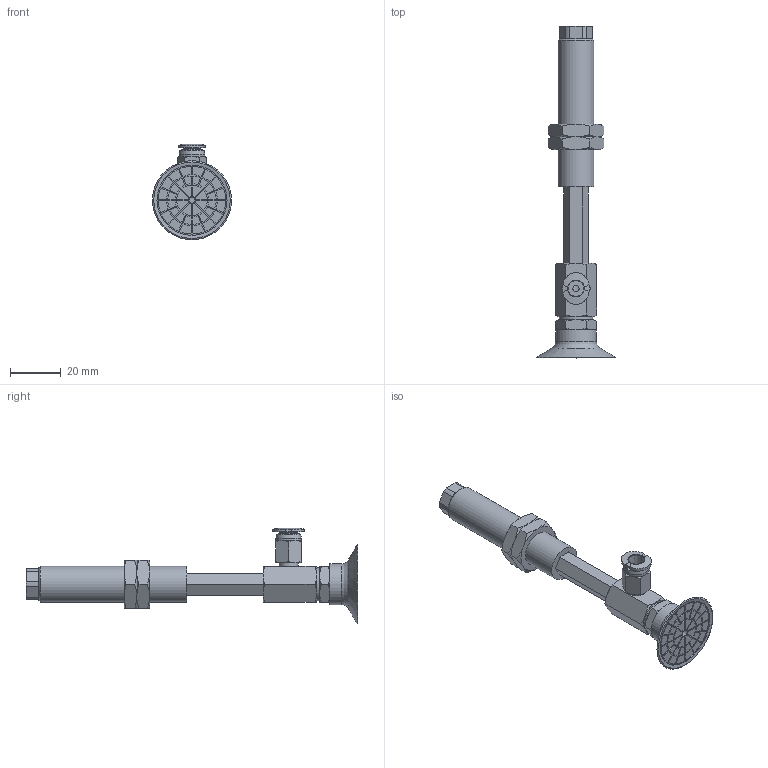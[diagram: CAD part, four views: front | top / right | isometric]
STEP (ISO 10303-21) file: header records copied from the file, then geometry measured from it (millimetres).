
FILE_DESCRIPTION(('STEP AP203'),'1');
FILE_NAME('-O.stp','2025-03-13T07:54:04',(' '),(' '),'Spatial InterOp 3D',' ',' ');
FILE_SCHEMA(('CONFIG_CONTROL_DESIGN'));
Length unit declared in the file: millimetre
Products named in the file (8): BNABPAYH-30B-30-※-O; NAPATH-30B-30--M; NAPATH-30B-30--F; Nut-25-S; CONNECTOR-30B-30-PA; TN-PA-30B-M6; PC-C_06-M5; BPAG-30B-※
Assembly tree (8 placements, depth 2):
  BNABPAYH-30B-30-※-O
    NAPATH-30B-30--M
    NAPATH-30B-30--F
    Nut-25-S  x2
    CONNECTOR-30B-30-PA
    TN-PA-30B-M6
    PC-C_06-M5
    BPAG-30B-※
Bounding box: 31.04 x 130.2 x 37.5 mm (x, y, z)
Volume: 20602 mm3; surface area: 16123.3 mm2
Topology: 8 solids, 8 shells, 425 faces, 973 edges, 618 vertices
Faces by surface type: plane 224, cylinder 105, cone 81, torus 8, bspline 4, revolution 3
Full cylindrical faces by diameter (mm): 2.5 x1, 3 x2, 4 x2, 4.134 x2, 4.917 x1, 5 x2, 6 x3, 7 x1, 7.4 x1, 8.2 x1, 10 x3, 12.917 x2, 13 x1, 14 x1, 16 x1, 27.5 x1
Entity records: 11958 total; most frequent: CARTESIAN_POINT 2661, DIRECTION 1867, ORIENTED_EDGE 1732, EDGE_CURVE 866, AXIS2_PLACEMENT_3D 704, VERTEX_POINT 582, EDGE_LOOP 518, LINE 456
